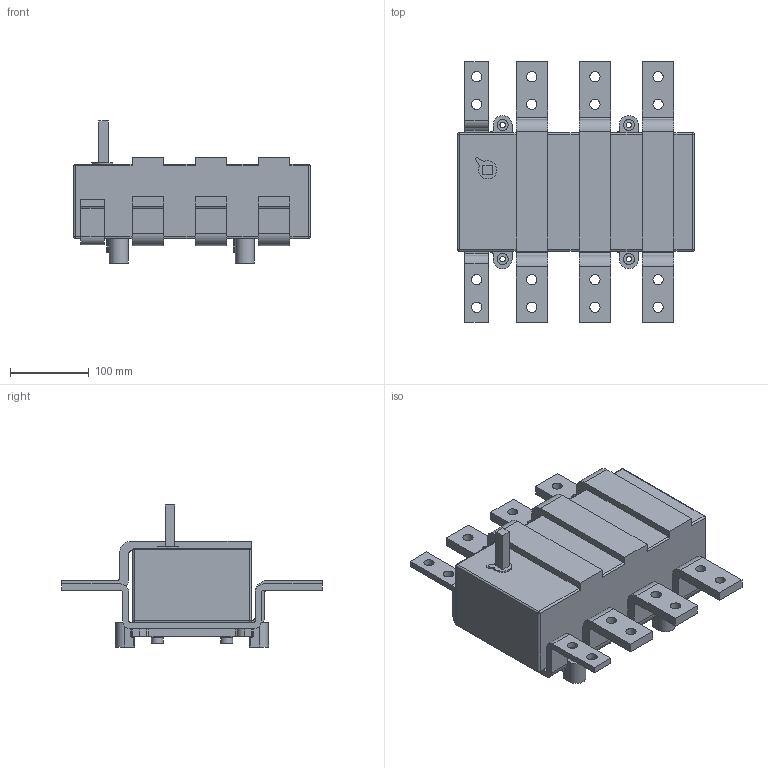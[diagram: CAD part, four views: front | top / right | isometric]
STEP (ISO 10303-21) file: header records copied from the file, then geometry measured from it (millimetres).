
FILE_DESCRIPTION(/* description */ (''),/* implementation_level */ '2;1');
FILE_NAME(/* name */ 'RA 1250 P3 N.stp',/* time_stamp */ '2021-08-19T09:11:46+02:00',/* author */ (''),/* organization */ (''),/* preprocessor_version */ 'ST-DEVELOPER v18.1',/* originating_system */ 'SIEMENS PLM Software NX 1965',/* authorisation */ '');
FILE_SCHEMA (('AUTOMOTIVE_DESIGN { 1 0 10303 214 3 1 1 1 }'));
Length unit declared in the file: millimetre
Products named in the file (1): RA 1250 P3 N_stp
Bounding box: 300 x 330 x 180 mm (x, y, z)
Volume: 5132238 mm3; surface area: 340475.2 mm2
Topology: 1 solids, 1 shells, 438 faces, 1172 edges, 726 vertices
Faces by surface type: cylinder 170, plane 158, bspline 50, torus 44, cone 8, sphere 8
Full cylindrical faces by diameter (mm): 4.8 x4, 5.6 x4, 7 x4, 13 x16, 13.5 x4, 14 x4, 15 x4
Entity records: 15771 total; most frequent: CARTESIAN_POINT 5299, ORIENTED_EDGE 2152, DIRECTION 2142, EDGE_CURVE 1076, AXIS2_PLACEMENT_3D 797, VERTEX_POINT 706, LINE 548, VECTOR 548
